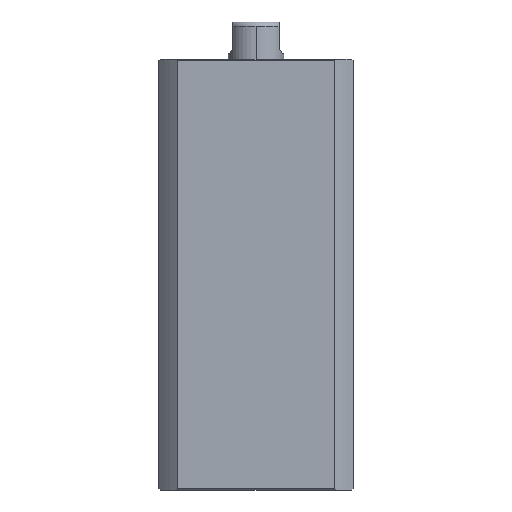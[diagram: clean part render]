
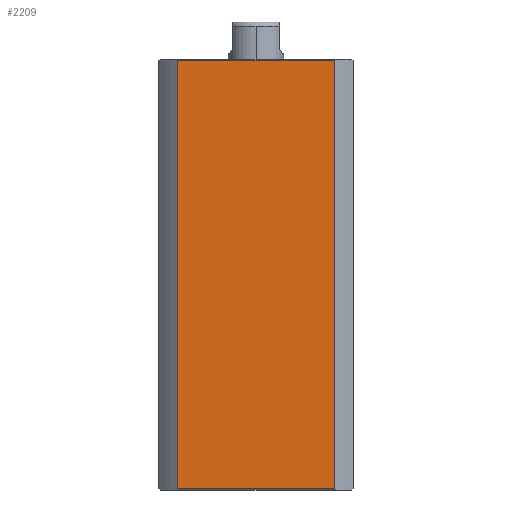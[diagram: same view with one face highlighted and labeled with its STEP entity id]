
A CAD part, left-side view. The second image highlights one B-rep face of the part: STEP entity #2209.
In plain terms, the highlighted planar face has unit normal (-1, 0, 0).
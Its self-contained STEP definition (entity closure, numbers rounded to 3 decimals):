
#339 = LINE ( 'NONE', #1563, #2514 ) ;
#996 = VERTEX_POINT ( 'NONE', #10473 ) ;
#1465 = VECTOR ( 'NONE', #4662, 1000. ) ;
#1485 = CARTESIAN_POINT ( 'NONE',  ( -21., -16.971, -7. ) ) ;
#1563 = CARTESIAN_POINT ( 'NONE',  ( -21., 21., 92.7 ) ) ;
#1639 = DIRECTION ( 'NONE',  ( 0., 1., 0. ) ) ;
#1790 = VECTOR ( 'NONE', #11060, 1000. ) ;
#2185 = EDGE_CURVE ( 'NONE', #2432, #996, #339, .T. ) ;
#2209 = ADVANCED_FACE ( 'NONE', ( #6986 ), #9190, .F. ) ;
#2432 = VERTEX_POINT ( 'NONE', #8523 ) ;
#2514 = VECTOR ( 'NONE', #1639, 1000. ) ;
#2564 = ORIENTED_EDGE ( 'NONE', *, *, #9526, .F. ) ;
#2696 = CARTESIAN_POINT ( 'NONE',  ( -21., 16.971, 0.3 ) ) ;
#3000 = VERTEX_POINT ( 'NONE', #5280 ) ;
#3664 = ORIENTED_EDGE ( 'NONE', *, *, #2185, .T. ) ;
#3763 = CARTESIAN_POINT ( 'NONE',  ( -21., 21., 0.3 ) ) ;
#4662 = DIRECTION ( 'NONE',  ( 0., -1., 0. ) ) ;
#5189 = ORIENTED_EDGE ( 'NONE', *, *, #7216, .T. ) ;
#5280 = CARTESIAN_POINT ( 'NONE',  ( -21., -16.971, 0.3 ) ) ;
#6118 = EDGE_CURVE ( 'NONE', #10401, #996, #8931, .T. ) ;
#6133 = ORIENTED_EDGE ( 'NONE', *, *, #6118, .F. ) ;
#6546 = AXIS2_PLACEMENT_3D ( 'NONE', #9158, #9121, #9084 ) ;
#6874 = DIRECTION ( 'NONE',  ( 0., 0., -1. ) ) ;
#6986 = FACE_OUTER_BOUND ( 'NONE', #7046, .T. ) ;
#7046 = EDGE_LOOP ( 'NONE', ( #6133, #5189, #2564, #3664 ) ) ;
#7216 = EDGE_CURVE ( 'NONE', #10401, #3000, #8612, .T. ) ;
#8523 = CARTESIAN_POINT ( 'NONE',  ( -21., -16.971, 92.7 ) ) ;
#8612 = LINE ( 'NONE', #3763, #1465 ) ;
#8931 = LINE ( 'NONE', #10160, #1790 ) ;
#9084 = DIRECTION ( 'NONE',  ( 0., 1., 0. ) ) ;
#9121 = DIRECTION ( 'NONE',  ( 1., 0., 0. ) ) ;
#9158 = CARTESIAN_POINT ( 'NONE',  ( -21., 21., 93. ) ) ;
#9190 = PLANE ( 'NONE',  #6546 ) ;
#9526 = EDGE_CURVE ( 'NONE', #2432, #3000, #9562, .T. ) ;
#9562 = LINE ( 'NONE', #1485, #9838 ) ;
#9838 = VECTOR ( 'NONE', #6874, 1000. ) ;
#10160 = CARTESIAN_POINT ( 'NONE',  ( -21., 16.971, -7. ) ) ;
#10401 = VERTEX_POINT ( 'NONE', #2696 ) ;
#10473 = CARTESIAN_POINT ( 'NONE',  ( -21., 16.971, 92.7 ) ) ;
#11060 = DIRECTION ( 'NONE',  ( 0., 0., 1. ) ) ;
